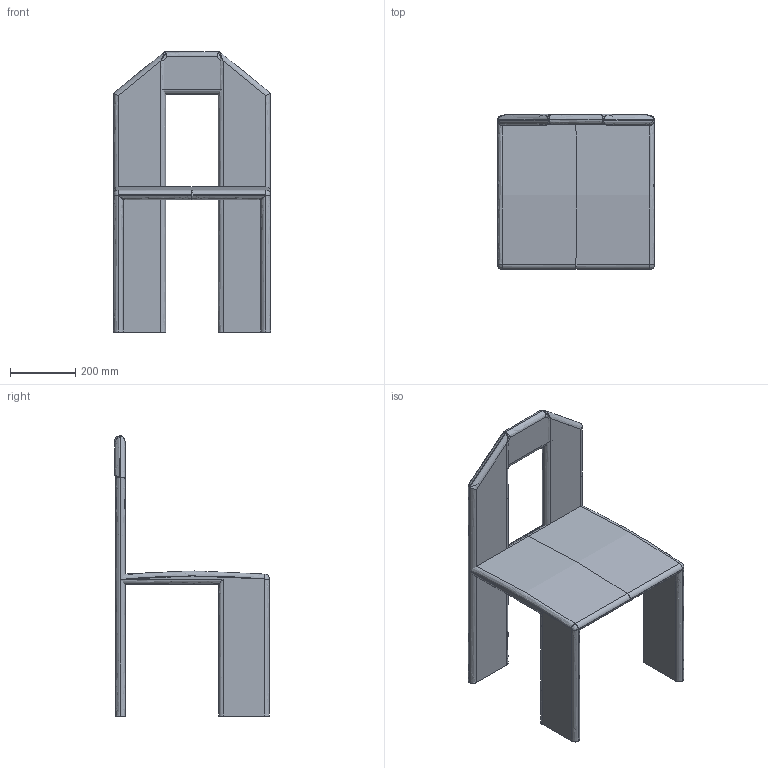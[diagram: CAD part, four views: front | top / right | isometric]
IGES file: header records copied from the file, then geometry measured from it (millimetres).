
Global section: file name: C:\Users\market02\Desktop\RYAN\Ruban\Ruban\FRUBACH046_CHAISE_CHAIR_RUBAN\FRUBACH046_CHAISE_CHAIR_RUBAN.igs; native system: Rhinoceros ( Dec 14 2021 ); preprocessor: Trout Lake IGES 012 Dec 14 2021; date: 220922.104101; units: millimetre
Bounding box: 480 x 472.82 x 856.48 mm (x, y, z)
Surface area: 1451628.2 mm2 (no closed solid volume)
Topology: 0 solids, 0 shells, 78 faces, 1236 edges, 1228 vertices
Faces by surface type: bspline 78
